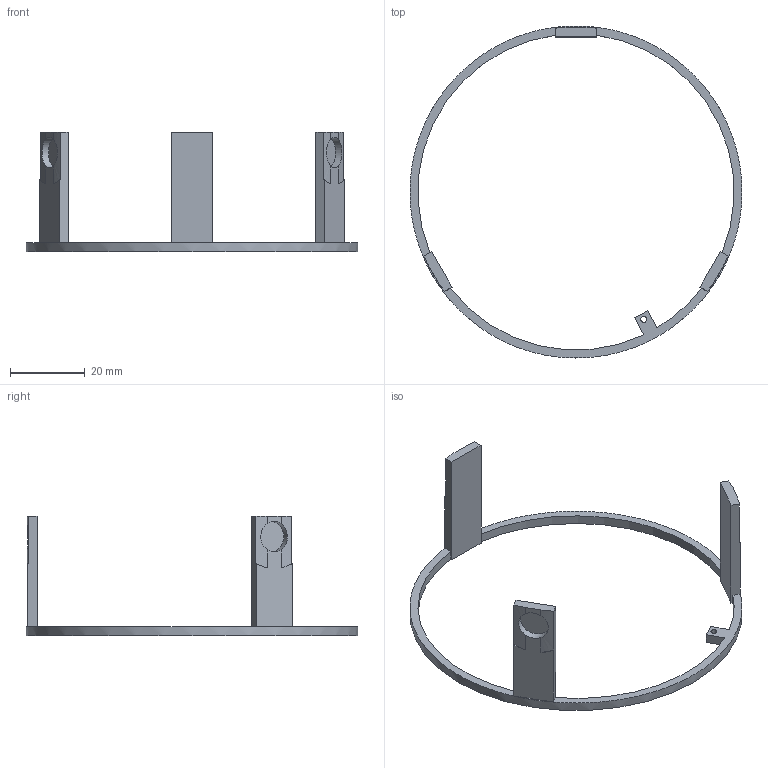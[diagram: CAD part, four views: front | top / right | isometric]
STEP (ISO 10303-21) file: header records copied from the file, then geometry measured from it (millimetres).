
FILE_DESCRIPTION(('Open CASCADE Model'),'2;1');
FILE_NAME('Open CASCADE Shape Model','2026-11-11T19:28:17',('Author'),( 'Open CASCADE'),'Open CASCADE STEP processor 7.9','Open CASCADE 7.9' ,'Unknown');
FILE_SCHEMA(('AUTOMOTIVE_DESIGN { 1 0 10303 214 1 1 1 1 }'));
Length unit declared in the file: millimetre
Products named in the file (1): Open CASCADE STEP translator 7.9 5
Bounding box: 88.6 x 88.6 x 32 mm (x, y, z)
Volume: 3701.5 mm3; surface area: 5175 mm2
Topology: 1 solids, 1 shells, 47 faces, 135 edges, 90 vertices
Faces by surface type: plane 26, cylinder 21
Full cylindrical faces by diameter (mm): 1.6 x1, 8.2 x3, 88.6 x1
Entity records: 4938 total; most frequent: CARTESIAN_POINT 2328, DIRECTION 465, LINE 294, VECTOR 294, ORIENTED_EDGE 270, PCURVE 270, DEFINITIONAL_REPRESENTATION 270, EDGE_CURVE 135
